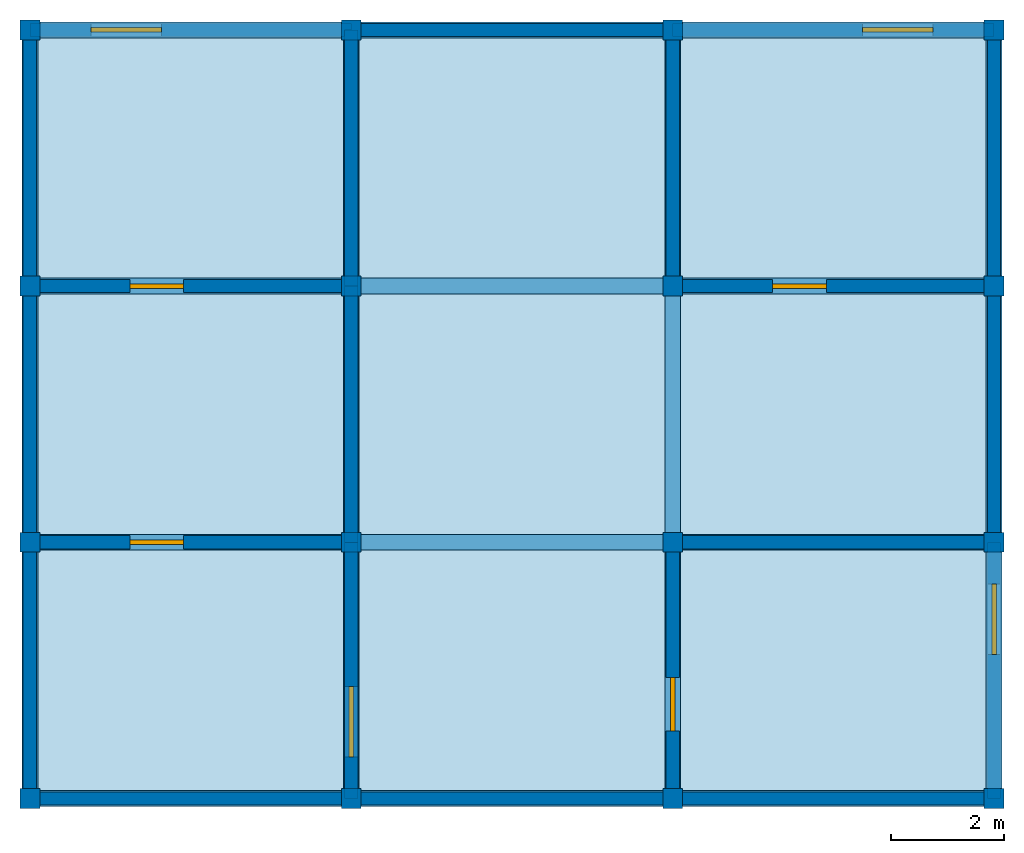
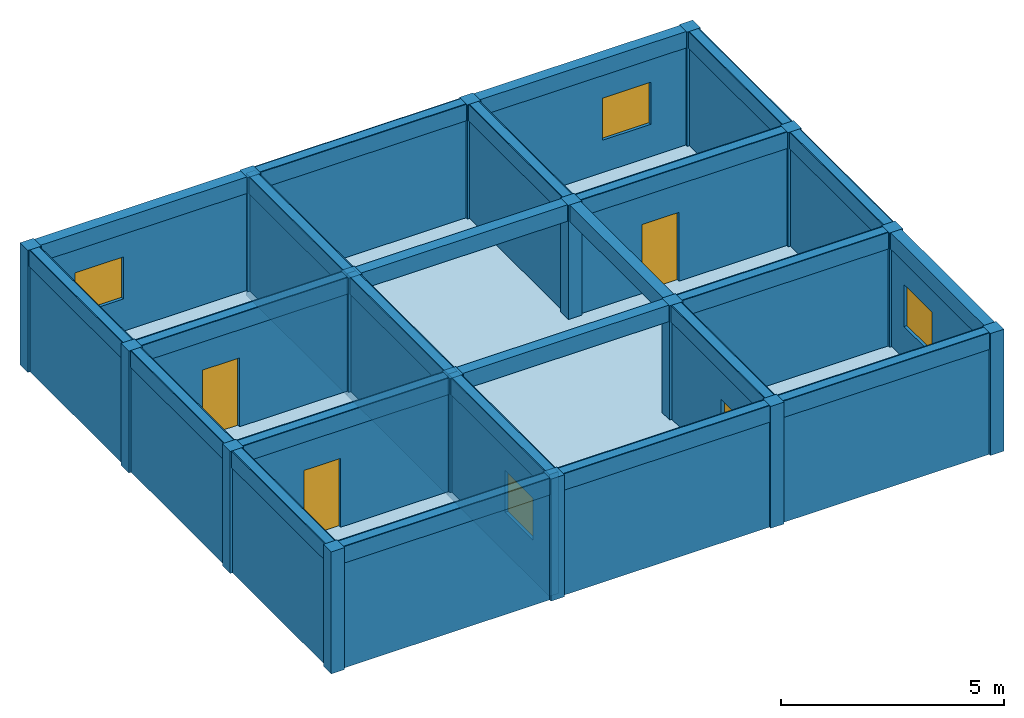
# One storey: 24 beams, 24 walls, 16 columns, 4 doors, 4 windows, 1 slab, 8 openings.
"""IFC4X3 building model written with IfcOpenShell, lengths in metres."""

from ifc_helpers import new_model, si_unit, frame, origin_with_axes, origin_2d, place, context, project, spatial, rectangle, extrude, material, element, fill, save


model = new_model("IFC4X3")

# Units and contexts
model_context = context("Model", 3, precision=1e-05, world=origin_with_axes())
ifc_project = project(units=[si_unit("LENGTHUNIT", "METRE"), si_unit("AREAUNIT", "SQUARE_METRE"), si_unit("VOLUMEUNIT", "CUBIC_METRE")], contexts=[model_context])

# Site, building, storey
site = spatial("IfcSite", under=ifc_project, Name="Valdivia Parcel", CompositionType="ELEMENT")
building = spatial("IfcBuilding", under=site, Name="Strata Block", CompositionType="ELEMENT")
storey = spatial("IfcBuildingStorey", under=building, Name="Level 11", CompositionType="ELEMENT", Elevation=33.35)

# Columns
ifc_material_1 = material(Name="Concrete")
column_1_placement = place(None, frame((-8.525, -6.795, 33.354), z_axis=(0.0, 0.0, 1.0), x_axis=(1.0, 0.0, 0.0)))
element("IfcColumn", 1, at=column_1_placement, inside=storey, material=ifc_material_1, Name="Column 11.1", ObjectType="Core Column", PredefinedType="COLUMN", context=model_context, shape_type="SweptSolid", body=[
    extrude(rectangle(XDim=0.35, YDim=0.35, at=origin_2d()), origin_with_axes(), (0.0, 0.0, 1.0), 3.335),
])
column_2_placement = place(None, frame((-8.525, -2.265, 33.354), z_axis=(0.0, 0.0, 1.0), x_axis=(1.0, 0.0, 0.0)))
element("IfcColumn", 2, at=column_2_placement, inside=storey, material=ifc_material_1, Name="Column 11.2", ObjectType="Core Column", PredefinedType="USERDEFINED", context=model_context, shape_type="SweptSolid", body=[
    extrude(rectangle(XDim=0.35, YDim=0.35, at=origin_2d()), origin_with_axes(), (0.0, 0.0, 1.0), 3.335),
])
column_3_placement = place(None, frame((-8.525, 2.265, 33.354), z_axis=(0.0, 0.0, 1.0), x_axis=(1.0, 0.0, 0.0)))
element("IfcColumn", 3, at=column_3_placement, inside=storey, material=ifc_material_1, Name="Column 11.3", ObjectType="Core Column", PredefinedType="NOTDEFINED", context=model_context, shape_type="SweptSolid", body=[
    extrude(rectangle(XDim=0.35, YDim=0.35, at=origin_2d()), origin_with_axes(), (0.0, 0.0, 1.0), 3.335),
])
column_4_placement = place(None, frame((-8.525, 6.795, 33.354), z_axis=(0.0, 0.0, 1.0), x_axis=(1.0, 0.0, 0.0)))
element("IfcColumn", 4, at=column_4_placement, inside=storey, material=ifc_material_1, Name="Column 11.4", ObjectType="Corner Column", PredefinedType="USERDEFINED", context=model_context, shape_type="SweptSolid", body=[
    extrude(rectangle(XDim=0.35, YDim=0.35, at=origin_2d()), origin_with_axes(), (0.0, 0.0, 1.0), 3.335),
])
column_5_placement = place(None, frame((-2.842, -6.795, 33.354), z_axis=(0.0, 0.0, 1.0), x_axis=(1.0, 0.0, 0.0)))
element("IfcColumn", 5, at=column_5_placement, inside=storey, material=ifc_material_1, Name="Column 11.5", ObjectType="Structural Column", PredefinedType="USERDEFINED", context=model_context, shape_type="SweptSolid", body=[
    extrude(rectangle(XDim=0.35, YDim=0.35, at=origin_2d()), origin_with_axes(), (0.0, 0.0, 1.0), 3.335),
])
column_6_placement = place(None, frame((-2.842, -2.265, 33.354), z_axis=(0.0, 0.0, 1.0), x_axis=(1.0, 0.0, 0.0)))
element("IfcColumn", 6, at=column_6_placement, inside=storey, material=ifc_material_1, Name="Column 11.6", ObjectType="Corner Column", PredefinedType="COLUMN", context=model_context, shape_type="SweptSolid", body=[
    extrude(rectangle(XDim=0.35, YDim=0.35, at=origin_2d()), origin_with_axes(), (0.0, 0.0, 1.0), 3.335),
])
column_7_placement = place(None, frame((-2.842, 2.265, 33.354), z_axis=(0.0, 0.0, 1.0), x_axis=(1.0, 0.0, 0.0)))
element("IfcColumn", 7, at=column_7_placement, inside=storey, material=ifc_material_1, Name="Column 11.7", ObjectType="Facade Column", PredefinedType="NOTDEFINED", context=model_context, shape_type="SweptSolid", body=[
    extrude(rectangle(XDim=0.35, YDim=0.35, at=origin_2d()), origin_with_axes(), (0.0, 0.0, 1.0), 3.335),
])
column_8_placement = place(None, frame((-2.842, 6.795, 33.354), z_axis=(0.0, 0.0, 1.0), x_axis=(1.0, 0.0, 0.0)))
element("IfcColumn", 8, at=column_8_placement, inside=storey, material=ifc_material_1, Name="Column 11.8", ObjectType="Corner Column", PredefinedType="NOTDEFINED", context=model_context, shape_type="SweptSolid", body=[
    extrude(rectangle(XDim=0.35, YDim=0.35, at=origin_2d()), origin_with_axes(), (0.0, 0.0, 1.0), 3.335),
])
column_9_placement = place(None, frame((2.841, -6.795, 33.354), z_axis=(0.0, 0.0, 1.0), x_axis=(1.0, 0.0, 0.0)))
element("IfcColumn", 9, at=column_9_placement, inside=storey, material=ifc_material_1, Name="Column 11.9", ObjectType="Structural Column", PredefinedType="PILASTER", context=model_context, shape_type="SweptSolid", body=[
    extrude(rectangle(XDim=0.35, YDim=0.35, at=origin_2d()), origin_with_axes(), (0.0, 0.0, 1.0), 3.335),
])
column_10_placement = place(None, frame((2.841, -2.265, 33.354), z_axis=(0.0, 0.0, 1.0), x_axis=(1.0, 0.0, 0.0)))
element("IfcColumn", 10, at=column_10_placement, inside=storey, material=ifc_material_1, Name="Column 11.10", ObjectType="Core Column", PredefinedType="NOTDEFINED", context=model_context, shape_type="SweptSolid", body=[
    extrude(rectangle(XDim=0.35, YDim=0.35, at=origin_2d()), origin_with_axes(), (0.0, 0.0, 1.0), 3.335),
])
column_11_placement = place(None, frame((2.841, 2.265, 33.354), z_axis=(0.0, 0.0, 1.0), x_axis=(1.0, 0.0, 0.0)))
element("IfcColumn", 11, at=column_11_placement, inside=storey, material=ifc_material_1, Name="Column 11.11", ObjectType="Corner Column", PredefinedType="PILASTER", context=model_context, shape_type="SweptSolid", body=[
    extrude(rectangle(XDim=0.35, YDim=0.35, at=origin_2d()), origin_with_axes(), (0.0, 0.0, 1.0), 3.335),
])
column_12_placement = place(None, frame((2.841, 6.795, 33.354), z_axis=(0.0, 0.0, 1.0), x_axis=(1.0, 0.0, 0.0)))
element("IfcColumn", 12, at=column_12_placement, inside=storey, material=ifc_material_1, Name="Column 11.12", ObjectType="Core Column", PredefinedType="COLUMN", context=model_context, shape_type="SweptSolid", body=[
    extrude(rectangle(XDim=0.35, YDim=0.35, at=origin_2d()), origin_with_axes(), (0.0, 0.0, 1.0), 3.335),
])
column_13_placement = place(None, frame((8.524, -6.795, 33.354), z_axis=(0.0, 0.0, 1.0), x_axis=(1.0, 0.0, 0.0)))
element("IfcColumn", 13, at=column_13_placement, inside=storey, material=ifc_material_1, Name="Column 11.13", ObjectType="Corner Column", PredefinedType="COLUMN", context=model_context, shape_type="SweptSolid", body=[
    extrude(rectangle(XDim=0.35, YDim=0.35, at=origin_2d()), origin_with_axes(), (0.0, 0.0, 1.0), 3.335),
])
column_14_placement = place(None, frame((8.524, -2.265, 33.354), z_axis=(0.0, 0.0, 1.0), x_axis=(1.0, 0.0, 0.0)))
element("IfcColumn", 14, at=column_14_placement, inside=storey, material=ifc_material_1, Name="Column 11.14", ObjectType="Corner Column", PredefinedType="USERDEFINED", context=model_context, shape_type="SweptSolid", body=[
    extrude(rectangle(XDim=0.35, YDim=0.35, at=origin_2d()), origin_with_axes(), (0.0, 0.0, 1.0), 3.335),
])
column_15_placement = place(None, frame((8.524, 2.265, 33.354), z_axis=(0.0, 0.0, 1.0), x_axis=(1.0, 0.0, 0.0)))
element("IfcColumn", 15, at=column_15_placement, inside=storey, material=ifc_material_1, Name="Column 11.15", ObjectType="Corner Column", PredefinedType="COLUMN", context=model_context, shape_type="SweptSolid", body=[
    extrude(rectangle(XDim=0.35, YDim=0.35, at=origin_2d()), origin_with_axes(), (0.0, 0.0, 1.0), 3.335),
])
column_16_placement = place(None, frame((8.524, 6.795, 33.354), z_axis=(0.0, 0.0, 1.0), x_axis=(1.0, 0.0, 0.0)))
element("IfcColumn", 16, at=column_16_placement, inside=storey, material=ifc_material_1, Name="Column 11.16", ObjectType="Corner Column", PredefinedType="NOTDEFINED", context=model_context, shape_type="SweptSolid", body=[
    extrude(rectangle(XDim=0.35, YDim=0.35, at=origin_2d()), origin_with_axes(), (0.0, 0.0, 1.0), 3.335),
])

# Beams
ifc_material_2 = material(Name="Timber")
beam_1_placement = place(None, frame((-5.684, -6.795, 36.239), z_axis=(0.0, 0.0, 1.0), x_axis=(1.0, 0.0, 0.0)))
element("IfcBeam", 17, at=beam_1_placement, inside=storey, material=ifc_material_2, Name="Beam 11.1", ObjectType="Ridge Beam", PredefinedType="LINTEL", context=model_context, shape_type="SweptSolid", body=[
    extrude(rectangle(XDim=5.683, YDim=0.28, at=origin_2d()), origin_with_axes(), (0.0, 0.0, 1.0), 0.45),
])
beam_2_placement = place(None, frame((0.0, -6.795, 36.239), z_axis=(0.0, 0.0, 1.0), x_axis=(1.0, 0.0, 0.0)))
element("IfcBeam", 18, at=beam_2_placement, inside=storey, material=ifc_material_2, Name="Beam 11.2", ObjectType="Secondary Beam", PredefinedType="T_BEAM", context=model_context, shape_type="SweptSolid", body=[
    extrude(rectangle(XDim=5.683, YDim=0.28, at=origin_2d()), origin_with_axes(), (0.0, 0.0, 1.0), 0.45),
])
beam_3_placement = place(None, frame((5.682, -6.795, 36.239), z_axis=(0.0, 0.0, 1.0), x_axis=(1.0, 0.0, 0.0)))
element("IfcBeam", 19, at=beam_3_placement, inside=storey, material=ifc_material_2, Name="Beam 11.3", ObjectType="Transfer Beam", PredefinedType="JOIST", context=model_context, shape_type="SweptSolid", body=[
    extrude(rectangle(XDim=5.683, YDim=0.28, at=origin_2d()), origin_with_axes(), (0.0, 0.0, 1.0), 0.45),
])
beam_4_placement = place(None, frame((-5.684, -2.265, 36.239), z_axis=(0.0, 0.0, 1.0), x_axis=(1.0, 0.0, 0.0)))
element("IfcBeam", 20, at=beam_4_placement, inside=storey, material=ifc_material_2, Name="Beam 11.4", ObjectType="Primary Beam", PredefinedType="LINTEL", context=model_context, shape_type="SweptSolid", body=[
    extrude(rectangle(XDim=5.683, YDim=0.28, at=origin_2d()), origin_with_axes(), (0.0, 0.0, 1.0), 0.45),
])
beam_5_placement = place(None, frame((0.0, -2.265, 36.239), z_axis=(0.0, 0.0, 1.0), x_axis=(1.0, 0.0, 0.0)))
element("IfcBeam", 21, at=beam_5_placement, inside=storey, material=ifc_material_2, Name="Beam 11.5", ObjectType="Rafter Beam", PredefinedType="JOIST", context=model_context, shape_type="SweptSolid", body=[
    extrude(rectangle(XDim=5.683, YDim=0.28, at=origin_2d()), origin_with_axes(), (0.0, 0.0, 1.0), 0.45),
])
beam_6_placement = place(None, frame((5.682, -2.265, 36.239), z_axis=(0.0, 0.0, 1.0), x_axis=(1.0, 0.0, 0.0)))
element("IfcBeam", 22, at=beam_6_placement, inside=storey, material=ifc_material_2, Name="Beam 11.6", ObjectType="Ridge Beam", PredefinedType="T_BEAM", context=model_context, shape_type="SweptSolid", body=[
    extrude(rectangle(XDim=5.683, YDim=0.28, at=origin_2d()), origin_with_axes(), (0.0, 0.0, 1.0), 0.45),
])
beam_7_placement = place(None, frame((-5.684, 2.265, 36.239), z_axis=(0.0, 0.0, 1.0), x_axis=(1.0, 0.0, 0.0)))
element("IfcBeam", 23, at=beam_7_placement, inside=storey, material=ifc_material_2, Name="Beam 11.7", ObjectType="Transfer Beam", PredefinedType="T_BEAM", context=model_context, shape_type="SweptSolid", body=[
    extrude(rectangle(XDim=5.683, YDim=0.28, at=origin_2d()), origin_with_axes(), (0.0, 0.0, 1.0), 0.45),
])
beam_8_placement = place(None, frame((0.0, 2.265, 36.239), z_axis=(0.0, 0.0, 1.0), x_axis=(1.0, 0.0, 0.0)))
element("IfcBeam", 24, at=beam_8_placement, inside=storey, material=ifc_material_2, Name="Beam 11.8", ObjectType="Secondary Beam", PredefinedType="JOIST", context=model_context, shape_type="SweptSolid", body=[
    extrude(rectangle(XDim=5.683, YDim=0.28, at=origin_2d()), origin_with_axes(), (0.0, 0.0, 1.0), 0.45),
])
beam_9_placement = place(None, frame((5.682, 2.265, 36.239), z_axis=(0.0, 0.0, 1.0), x_axis=(1.0, 0.0, 0.0)))
element("IfcBeam", 25, at=beam_9_placement, inside=storey, material=ifc_material_2, Name="Beam 11.9", ObjectType="Transfer Beam", PredefinedType="USERDEFINED", context=model_context, shape_type="SweptSolid", body=[
    extrude(rectangle(XDim=5.683, YDim=0.28, at=origin_2d()), origin_with_axes(), (0.0, 0.0, 1.0), 0.45),
])
beam_10_placement = place(None, frame((-5.684, 6.795, 36.239), z_axis=(0.0, 0.0, 1.0), x_axis=(1.0, 0.0, 0.0)))
element("IfcBeam", 26, at=beam_10_placement, inside=storey, material=ifc_material_2, Name="Beam 11.10", ObjectType="Secondary Beam", PredefinedType="HOLLOWCORE", context=model_context, shape_type="SweptSolid", body=[
    extrude(rectangle(XDim=5.683, YDim=0.28, at=origin_2d()), origin_with_axes(), (0.0, 0.0, 1.0), 0.45),
])
beam_11_placement = place(None, frame((0.0, 6.795, 36.239), z_axis=(0.0, 0.0, 1.0), x_axis=(1.0, 0.0, 0.0)))
element("IfcBeam", 27, at=beam_11_placement, inside=storey, material=ifc_material_2, Name="Beam 11.11", ObjectType="Rafter Beam", PredefinedType="NOTDEFINED", context=model_context, shape_type="SweptSolid", body=[
    extrude(rectangle(XDim=5.683, YDim=0.28, at=origin_2d()), origin_with_axes(), (0.0, 0.0, 1.0), 0.45),
])
beam_12_placement = place(None, frame((5.682, 6.795, 36.239), z_axis=(0.0, 0.0, 1.0), x_axis=(1.0, 0.0, 0.0)))
element("IfcBeam", 28, at=beam_12_placement, inside=storey, material=ifc_material_2, Name="Beam 11.12", ObjectType="Rafter Beam", PredefinedType="BEAM", context=model_context, shape_type="SweptSolid", body=[
    extrude(rectangle(XDim=5.683, YDim=0.28, at=origin_2d()), origin_with_axes(), (0.0, 0.0, 1.0), 0.45),
])
beam_13_placement = place(None, frame((-8.525, -4.53, 36.239), z_axis=(0.0, 0.0, 1.0), x_axis=(0.0, 1.0, 0.0)))
element("IfcBeam", 29, at=beam_13_placement, inside=storey, material=ifc_material_2, Name="Beam 11.13", ObjectType="Ridge Beam", PredefinedType="LINTEL", context=model_context, shape_type="SweptSolid", body=[
    extrude(rectangle(XDim=4.53, YDim=0.28, at=origin_2d()), origin_with_axes(), (0.0, 0.0, 1.0), 0.45),
])
beam_14_placement = place(None, frame((-8.525, 0.0, 36.239), z_axis=(0.0, 0.0, 1.0), x_axis=(0.0, 1.0, 0.0)))
element("IfcBeam", 30, at=beam_14_placement, inside=storey, material=ifc_material_2, Name="Beam 11.14", ObjectType="Secondary Beam", PredefinedType="USERDEFINED", context=model_context, shape_type="SweptSolid", body=[
    extrude(rectangle(XDim=4.53, YDim=0.28, at=origin_2d()), origin_with_axes(), (0.0, 0.0, 1.0), 0.45),
])
beam_15_placement = place(None, frame((-8.525, 4.53, 36.239), z_axis=(0.0, 0.0, 1.0), x_axis=(0.0, 1.0, 0.0)))
element("IfcBeam", 31, at=beam_15_placement, inside=storey, material=ifc_material_2, Name="Beam 11.15", ObjectType="Primary Beam", PredefinedType="T_BEAM", context=model_context, shape_type="SweptSolid", body=[
    extrude(rectangle(XDim=4.53, YDim=0.28, at=origin_2d()), origin_with_axes(), (0.0, 0.0, 1.0), 0.45),
])
beam_16_placement = place(None, frame((-2.842, -4.53, 36.239), z_axis=(0.0, 0.0, 1.0), x_axis=(0.0, 1.0, 0.0)))
element("IfcBeam", 32, at=beam_16_placement, inside=storey, material=ifc_material_2, Name="Beam 11.16", ObjectType="Rafter Beam", PredefinedType="BEAM", context=model_context, shape_type="SweptSolid", body=[
    extrude(rectangle(XDim=4.53, YDim=0.28, at=origin_2d()), origin_with_axes(), (0.0, 0.0, 1.0), 0.45),
])
beam_17_placement = place(None, frame((-2.842, 0.0, 36.239), z_axis=(0.0, 0.0, 1.0), x_axis=(0.0, 1.0, 0.0)))
element("IfcBeam", 33, at=beam_17_placement, inside=storey, material=ifc_material_2, Name="Beam 11.17", ObjectType="Primary Beam", PredefinedType="NOTDEFINED", context=model_context, shape_type="SweptSolid", body=[
    extrude(rectangle(XDim=4.53, YDim=0.28, at=origin_2d()), origin_with_axes(), (0.0, 0.0, 1.0), 0.45),
])
for number, where, z_axis, x_axis, name in (
    (34, (-2.842, 4.53, 36.239), (0.0, 0.0, 1.0), (0.0, 1.0, 0.0), "Beam 11.18"),
    (35, (2.841, -4.53, 36.239), (0.0, 0.0, 1.0), (0.0, 1.0, 0.0), "Beam 11.19"),
):
    element("IfcBeam", number, at=place(None, frame(where, z_axis=z_axis, x_axis=x_axis)), inside=storey, material=ifc_material_2, Name=name, ObjectType="Rafter Beam", PredefinedType="JOIST", context=model_context, shape_type="SweptSolid", body=[
        extrude(rectangle(XDim=4.53, YDim=0.28, at=origin_2d()), origin_with_axes(), (0.0, 0.0, 1.0), 0.45),
    ])
beam_18_placement = place(None, frame((2.841, 0.0, 36.239), z_axis=(0.0, 0.0, 1.0), x_axis=(0.0, 1.0, 0.0)))
element("IfcBeam", 36, at=beam_18_placement, inside=storey, material=ifc_material_2, Name="Beam 11.20", ObjectType="Primary Beam", PredefinedType="LINTEL", context=model_context, shape_type="SweptSolid", body=[
    extrude(rectangle(XDim=4.53, YDim=0.28, at=origin_2d()), origin_with_axes(), (0.0, 0.0, 1.0), 0.45),
])
beam_19_placement = place(None, frame((2.841, 4.53, 36.239), z_axis=(0.0, 0.0, 1.0), x_axis=(0.0, 1.0, 0.0)))
element("IfcBeam", 37, at=beam_19_placement, inside=storey, material=ifc_material_2, Name="Beam 11.21", ObjectType="Secondary Beam", PredefinedType="BEAM", context=model_context, shape_type="SweptSolid", body=[
    extrude(rectangle(XDim=4.53, YDim=0.28, at=origin_2d()), origin_with_axes(), (0.0, 0.0, 1.0), 0.45),
])
beam_20_placement = place(None, frame((8.524, -4.53, 36.239), z_axis=(0.0, 0.0, 1.0), x_axis=(0.0, 1.0, 0.0)))
element("IfcBeam", 38, at=beam_20_placement, inside=storey, material=ifc_material_2, Name="Beam 11.22", ObjectType="Rafter Beam", PredefinedType="USERDEFINED", context=model_context, shape_type="SweptSolid", body=[
    extrude(rectangle(XDim=4.53, YDim=0.28, at=origin_2d()), origin_with_axes(), (0.0, 0.0, 1.0), 0.45),
])
beam_21_placement = place(None, frame((8.524, 0.0, 36.239), z_axis=(0.0, 0.0, 1.0), x_axis=(0.0, 1.0, 0.0)))
element("IfcBeam", 39, at=beam_21_placement, inside=storey, material=ifc_material_2, Name="Beam 11.23", ObjectType="Ridge Beam", PredefinedType="USERDEFINED", context=model_context, shape_type="SweptSolid", body=[
    extrude(rectangle(XDim=4.53, YDim=0.28, at=origin_2d()), origin_with_axes(), (0.0, 0.0, 1.0), 0.45),
])
beam_22_placement = place(None, frame((8.524, 4.53, 36.239), z_axis=(0.0, 0.0, 1.0), x_axis=(0.0, 1.0, 0.0)))
element("IfcBeam", 40, at=beam_22_placement, inside=storey, material=ifc_material_2, Name="Beam 11.24", ObjectType="Primary Beam", PredefinedType="USERDEFINED", context=model_context, shape_type="SweptSolid", body=[
    extrude(rectangle(XDim=4.53, YDim=0.28, at=origin_2d()), origin_with_axes(), (0.0, 0.0, 1.0), 0.45),
])

# Slab
slab_placement = place(None, frame((0.0, 0.0, 33.35), z_axis=(0.0, 0.0, 1.0), x_axis=(1.0, 0.0, 0.0)))
element("IfcSlab", 41, at=slab_placement, inside=storey, material=ifc_material_1, Name="Slab 11", ObjectType="Floor Slab", PredefinedType="FLOOR", context=model_context, shape_type="SweptSolid", body=[
    extrude(rectangle(XDim=17.05, YDim=13.59, at=origin_2d()), origin_with_axes(), (0.0, 0.0, 1.0), 0.22),
])

# Wall, opening, door
wall_1_placement = place(None, frame((-5.684, -2.265, 33.354), z_axis=(0.0, 0.0, 1.0), x_axis=(1.0, 0.0, 0.0)))
wall_1 = element("IfcWall", 42, at=wall_1_placement, inside=storey, material=ifc_material_1, Name="Wall 11.1", ObjectType="Corridor Partition", PredefinedType="PLUMBINGWALL", context=model_context, shape_type="SweptSolid", body=[
    extrude(rectangle(XDim=5.683, YDim=0.234741, at=origin_2d()), origin_with_axes(), (0.0, 0.0, 1.0), 3.335),
])
opening_1_placement = place(None, frame((-6.284, -2.265, 33.354), z_axis=(0.0, 0.0, 1.0), x_axis=(1.0, 0.0, 0.0)))
opening_1 = element("IfcOpeningElement", 43, at=opening_1_placement, cuts=wall_1, Name="Door opening 11.1", ObjectType="Door Opening", PredefinedType="OPENING", context=model_context, shape_type="SweptSolid", body=[
    extrude(rectangle(XDim=0.95, YDim=0.314741, at=origin_2d()), origin_with_axes(), (0.0, 0.0, 1.0), 2.1),
])
door_1_placement = place(None, frame((-6.284, -2.265, 33.354), z_axis=(0.0, 0.0, 1.0), x_axis=(1.0, 0.0, 0.0)))
door_1 = element("IfcDoor", 44, at=door_1_placement, inside=storey, Name="Door 11.1", ObjectType="Fire Door", OverallHeight=2.1, OverallWidth=0.95, context=model_context, shape_type="SweptSolid", body=[
    extrude(rectangle(XDim=0.95, YDim=0.08, at=origin_2d()), origin_with_axes(), (0.0, 0.0, 1.0), 2.1),
])
fill(opening_1, door_1)

# Wall, opening, window
ifc_material_3 = material(Name="CLT")
wall_2_placement = place(None, frame((-2.8425, -4.53, 33.354), z_axis=(0.0, 0.0, 1.0), x_axis=(0.0, 1.0, 0.0)))
wall_2 = element("IfcWall", 45, at=wall_2_placement, inside=storey, material=ifc_material_3, Name="Wall 11.2", ObjectType="Exterior Wall", PredefinedType="STANDARD", context=model_context, shape_type="SweptSolid", body=[
    extrude(rectangle(XDim=4.53, YDim=0.234741, at=origin_2d()), origin_with_axes(), (0.0, 0.0, 1.0), 3.335),
])
opening_2_placement = place(None, frame((-2.843, -5.436, 34.454), z_axis=(0.0, 0.0, 1.0), x_axis=(0.0, 1.0, 0.0)))
opening_2 = element("IfcOpeningElement", 46, at=opening_2_placement, cuts=wall_2, Name="Window opening 11.2", ObjectType="Window Opening", PredefinedType="OPENING", context=model_context, shape_type="SweptSolid", body=[
    extrude(rectangle(XDim=1.25, YDim=0.314741, at=origin_2d()), origin_with_axes(), (0.0, 0.0, 1.0), 1.15),
])
window_1_placement = place(None, frame((-2.843, -5.436, 34.454), z_axis=(0.0, 0.0, 1.0), x_axis=(0.0, 1.0, 0.0)))
window_1 = element("IfcWindow", 47, at=window_1_placement, inside=storey, Name="Window 11.2", ObjectType="Fixed Window", OverallHeight=1.15, OverallWidth=1.25, context=model_context, shape_type="SweptSolid", body=[
    extrude(rectangle(XDim=1.25, YDim=0.08, at=origin_2d()), origin_with_axes(), (0.0, 0.0, 1.0), 1.15),
])
fill(opening_2, window_1)

# Walls
wall_3_placement = place(None, frame((-5.684, -6.795, 33.354), z_axis=(0.0, 0.0, 1.0), x_axis=(1.0, 0.0, 0.0)))
element("IfcWall", 48, at=wall_3_placement, inside=storey, material=ifc_material_3, Name="Wall 11.3", ObjectType="Exterior Wall", PredefinedType="SHEAR", context=model_context, shape_type="SweptSolid", body=[
    extrude(rectangle(XDim=5.683, YDim=0.234741, at=origin_2d()), origin_with_axes(), (0.0, 0.0, 1.0), 3.335),
])
wall_4_placement = place(None, frame((-8.5255, -4.53, 33.354), z_axis=(0.0, 0.0, 1.0), x_axis=(0.0, 1.0, 0.0)))
element("IfcWall", 49, at=wall_4_placement, inside=storey, material=ifc_material_1, Name="Wall 11.4", ObjectType="Exterior Wall", PredefinedType="SOLIDWALL", context=model_context, shape_type="SweptSolid", body=[
    extrude(rectangle(XDim=4.53, YDim=0.234741, at=origin_2d()), origin_with_axes(), (0.0, 0.0, 1.0), 3.335),
])

# Wall, opening, door
ifc_material_4 = material(Name="Gypsum")
wall_5_placement = place(None, frame((2.8405, -4.53, 33.354), z_axis=(0.0, 0.0, 1.0), x_axis=(0.0, 1.0, 0.0)))
wall_5 = element("IfcWall", 50, at=wall_5_placement, inside=storey, material=ifc_material_4, Name="Wall 11.5", ObjectType="Corridor Partition", PredefinedType="POLYGONAL", context=model_context, shape_type="SweptSolid", body=[
    extrude(rectangle(XDim=4.53, YDim=0.234741, at=origin_2d()), origin_with_axes(), (0.0, 0.0, 1.0), 3.335),
])
opening_3_placement = place(None, frame((2.841, -5.13, 33.354), z_axis=(0.0, 0.0, 1.0), x_axis=(0.0, 1.0, 0.0)))
opening_3 = element("IfcOpeningElement", 51, at=opening_3_placement, cuts=wall_5, Name="Door opening 11.3", ObjectType="Door Opening", PredefinedType="OPENING", context=model_context, shape_type="SweptSolid", body=[
    extrude(rectangle(XDim=0.95, YDim=0.314741, at=origin_2d()), origin_with_axes(), (0.0, 0.0, 1.0), 2.1),
])
door_2_placement = place(None, frame((2.841, -5.13, 33.354), z_axis=(0.0, 0.0, 1.0), x_axis=(0.0, 1.0, 0.0)))
door_2 = element("IfcDoor", 52, at=door_2_placement, inside=storey, Name="Door 11.3", ObjectType="Entry Door", OverallHeight=2.1, OverallWidth=0.95, context=model_context, shape_type="SweptSolid", body=[
    extrude(rectangle(XDim=0.95, YDim=0.08, at=origin_2d()), origin_with_axes(), (0.0, 0.0, 1.0), 2.1),
])
fill(opening_3, door_2)

# Walls
wall_6_placement = place(None, frame((-0.001, -6.795, 33.354), z_axis=(0.0, 0.0, 1.0), x_axis=(1.0, 0.0, 0.0)))
element("IfcWall", 53, at=wall_6_placement, inside=storey, material=ifc_material_1, Name="Wall 11.6", ObjectType="Exterior Wall", PredefinedType="USERDEFINED", context=model_context, shape_type="SweptSolid", body=[
    extrude(rectangle(XDim=5.683, YDim=0.234741, at=origin_2d()), origin_with_axes(), (0.0, 0.0, 1.0), 3.335),
])
wall_7_placement = place(None, frame((-2.8425, -4.53, 33.354), z_axis=(0.0, 0.0, 1.0), x_axis=(0.0, 1.0, 0.0)))
element("IfcWall", 54, at=wall_7_placement, inside=storey, material=ifc_material_1, Name="Wall 11.7", ObjectType="Exterior Wall", PredefinedType="USERDEFINED", context=model_context, shape_type="SweptSolid", body=[
    extrude(rectangle(XDim=4.53, YDim=0.234741, at=origin_2d()), origin_with_axes(), (0.0, 0.0, 1.0), 3.335),
])
wall_8_placement = place(None, frame((5.682, -2.265, 33.354), z_axis=(0.0, 0.0, 1.0), x_axis=(1.0, 0.0, 0.0)))
element("IfcWall", 55, at=wall_8_placement, inside=storey, material=ifc_material_1, Name="Wall 11.8", ObjectType="Corridor Partition", PredefinedType="SHEAR", context=model_context, shape_type="SweptSolid", body=[
    extrude(rectangle(XDim=5.683, YDim=0.234741, at=origin_2d()), origin_with_axes(), (0.0, 0.0, 1.0), 3.335),
])

# Wall, opening, window
ifc_material_5 = material(Name="Brick")
wall_9_placement = place(None, frame((8.5235, -4.53, 33.354), z_axis=(0.0, 0.0, 1.0), x_axis=(0.0, 1.0, 0.0)))
wall_9 = element("IfcWall", 56, at=wall_9_placement, inside=storey, material=ifc_material_5, Name="Wall 11.9", ObjectType="Exterior Wall", PredefinedType="MOVABLE", context=model_context, shape_type="SweptSolid", body=[
    extrude(rectangle(XDim=4.53, YDim=0.234741, at=origin_2d()), origin_with_axes(), (0.0, 0.0, 1.0), 3.335),
])
opening_4_placement = place(None, frame((8.524, -3.624, 34.454), z_axis=(0.0, 0.0, 1.0), x_axis=(0.0, 1.0, 0.0)))
opening_4 = element("IfcOpeningElement", 57, at=opening_4_placement, cuts=wall_9, Name="Window opening 11.4", ObjectType="Window Opening", PredefinedType="OPENING", context=model_context, shape_type="SweptSolid", body=[
    extrude(rectangle(XDim=1.25, YDim=0.314741, at=origin_2d()), origin_with_axes(), (0.0, 0.0, 1.0), 1.15),
])
window_2_placement = place(None, frame((8.524, -3.624, 34.454), z_axis=(0.0, 0.0, 1.0), x_axis=(0.0, 1.0, 0.0)))
window_2 = element("IfcWindow", 58, at=window_2_placement, inside=storey, Name="Window 11.4", ObjectType="Fixed Window", OverallHeight=1.15, OverallWidth=1.25, context=model_context, shape_type="SweptSolid", body=[
    extrude(rectangle(XDim=1.25, YDim=0.08, at=origin_2d()), origin_with_axes(), (0.0, 0.0, 1.0), 1.15),
])
fill(opening_4, window_2)

# Wall
wall_10_placement = place(None, frame((5.682, -6.795, 33.354), z_axis=(0.0, 0.0, 1.0), x_axis=(1.0, 0.0, 0.0)))
element("IfcWall", 59, at=wall_10_placement, inside=storey, material=ifc_material_1, Name="Wall 11.10", ObjectType="Exterior Wall", PredefinedType="SOLIDWALL", context=model_context, shape_type="SweptSolid", body=[
    extrude(rectangle(XDim=5.683, YDim=0.234741, at=origin_2d()), origin_with_axes(), (0.0, 0.0, 1.0), 3.335),
])

# Wall, opening, door
wall_11_placement = place(None, frame((-5.684, 2.265, 33.354), z_axis=(0.0, 0.0, 1.0), x_axis=(1.0, 0.0, 0.0)))
wall_11 = element("IfcWall", 60, at=wall_11_placement, inside=storey, material=ifc_material_4, Name="Wall 11.11", ObjectType="Corridor Partition", PredefinedType="PARTITIONING", context=model_context, shape_type="SweptSolid", body=[
    extrude(rectangle(XDim=5.683, YDim=0.234741, at=origin_2d()), origin_with_axes(), (0.0, 0.0, 1.0), 3.335),
])
opening_5_placement = place(None, frame((-6.284, 2.265, 33.354), z_axis=(0.0, 0.0, 1.0), x_axis=(1.0, 0.0, 0.0)))
opening_5 = element("IfcOpeningElement", 61, at=opening_5_placement, cuts=wall_11, Name="Door opening 11.5", ObjectType="Door Opening", PredefinedType="OPENING", context=model_context, shape_type="SweptSolid", body=[
    extrude(rectangle(XDim=0.95, YDim=0.314741, at=origin_2d()), origin_with_axes(), (0.0, 0.0, 1.0), 2.1),
])
door_3_placement = place(None, frame((-6.284, 2.265, 33.354), z_axis=(0.0, 0.0, 1.0), x_axis=(1.0, 0.0, 0.0)))
door_3 = element("IfcDoor", 62, at=door_3_placement, inside=storey, Name="Door 11.5", ObjectType="Interior Door", OverallHeight=2.1, OverallWidth=0.95, context=model_context, shape_type="SweptSolid", body=[
    extrude(rectangle(XDim=0.95, YDim=0.08, at=origin_2d()), origin_with_axes(), (0.0, 0.0, 1.0), 2.1),
])
fill(opening_5, door_3)

# Walls
wall_12_placement = place(None, frame((-2.8425, 0.0, 33.354), z_axis=(0.0, 0.0, 1.0), x_axis=(0.0, 1.0, 0.0)))
element("IfcWall", 63, at=wall_12_placement, inside=storey, material=ifc_material_4, Name="Wall 11.12", ObjectType="Exterior Wall", PredefinedType="PARTITIONING", context=model_context, shape_type="SweptSolid", body=[
    extrude(rectangle(XDim=4.53, YDim=0.234741, at=origin_2d()), origin_with_axes(), (0.0, 0.0, 1.0), 3.335),
])
wall_13_placement = place(None, frame((-8.5255, 0.0, 33.354), z_axis=(0.0, 0.0, 1.0), x_axis=(0.0, 1.0, 0.0)))
element("IfcWall", 64, at=wall_13_placement, inside=storey, material=ifc_material_1, Name="Wall 11.13", ObjectType="Exterior Wall", PredefinedType="NOTDEFINED", context=model_context, shape_type="SweptSolid", body=[
    extrude(rectangle(XDim=4.53, YDim=0.234741, at=origin_2d()), origin_with_axes(), (0.0, 0.0, 1.0), 3.335),
])
wall_14_placement = place(None, frame((-2.8425, 0.0, 33.354), z_axis=(0.0, 0.0, 1.0), x_axis=(0.0, 1.0, 0.0)))
element("IfcWall", 65, at=wall_14_placement, inside=storey, material=ifc_material_4, Name="Wall 11.14", ObjectType="Exterior Wall", PredefinedType="PLUMBINGWALL", context=model_context, shape_type="SweptSolid", body=[
    extrude(rectangle(XDim=4.53, YDim=0.234741, at=origin_2d()), origin_with_axes(), (0.0, 0.0, 1.0), 3.335),
])

# Wall, opening, door
wall_15_placement = place(None, frame((5.682, 2.265, 33.354), z_axis=(0.0, 0.0, 1.0), x_axis=(1.0, 0.0, 0.0)))
wall_15 = element("IfcWall", 66, at=wall_15_placement, inside=storey, material=ifc_material_3, Name="Wall 11.15", ObjectType="Corridor Partition", PredefinedType="PARAPET", context=model_context, shape_type="SweptSolid", body=[
    extrude(rectangle(XDim=5.683, YDim=0.234741, at=origin_2d()), origin_with_axes(), (0.0, 0.0, 1.0), 3.335),
])
opening_6_placement = place(None, frame((5.082, 2.265, 33.354), z_axis=(0.0, 0.0, 1.0), x_axis=(1.0, 0.0, 0.0)))
opening_6 = element("IfcOpeningElement", 67, at=opening_6_placement, cuts=wall_15, Name="Door opening 11.7", ObjectType="Door Opening", PredefinedType="OPENING", context=model_context, shape_type="SweptSolid", body=[
    extrude(rectangle(XDim=0.95, YDim=0.314741, at=origin_2d()), origin_with_axes(), (0.0, 0.0, 1.0), 2.1),
])
door_4_placement = place(None, frame((5.082, 2.265, 33.354), z_axis=(0.0, 0.0, 1.0), x_axis=(1.0, 0.0, 0.0)))
door_4 = element("IfcDoor", 68, at=door_4_placement, inside=storey, Name="Door 11.7", ObjectType="Entry Door", OverallHeight=2.1, OverallWidth=0.95, context=model_context, shape_type="SweptSolid", body=[
    extrude(rectangle(XDim=0.95, YDim=0.08, at=origin_2d()), origin_with_axes(), (0.0, 0.0, 1.0), 2.1),
])
fill(opening_6, door_4)

# Wall
wall_16_placement = place(None, frame((8.5235, 0.0, 33.354), z_axis=(0.0, 0.0, 1.0), x_axis=(0.0, 1.0, 0.0)))
element("IfcWall", 69, at=wall_16_placement, inside=storey, material=ifc_material_4, Name="Wall 11.16", ObjectType="Exterior Wall", PredefinedType="SHEAR", context=model_context, shape_type="SweptSolid", body=[
    extrude(rectangle(XDim=4.53, YDim=0.234741, at=origin_2d()), origin_with_axes(), (0.0, 0.0, 1.0), 3.335),
])

# Wall, opening, window
wall_17_placement = place(None, frame((-5.684, 6.795, 33.354), z_axis=(0.0, 0.0, 1.0), x_axis=(1.0, 0.0, 0.0)))
wall_17 = element("IfcWall", 70, at=wall_17_placement, inside=storey, material=ifc_material_5, Name="Wall 11.17", ObjectType="Exterior Wall", PredefinedType="PARTITIONING", context=model_context, shape_type="SweptSolid", body=[
    extrude(rectangle(XDim=5.683, YDim=0.234741, at=origin_2d()), origin_with_axes(), (0.0, 0.0, 1.0), 3.335),
])
opening_7_placement = place(None, frame((-6.821, 6.795, 34.454), z_axis=(0.0, 0.0, 1.0), x_axis=(1.0, 0.0, 0.0)))
opening_7 = element("IfcOpeningElement", 71, at=opening_7_placement, cuts=wall_17, Name="Window opening 11.6", ObjectType="Window Opening", PredefinedType="OPENING", context=model_context, shape_type="SweptSolid", body=[
    extrude(rectangle(XDim=1.25, YDim=0.314741, at=origin_2d()), origin_with_axes(), (0.0, 0.0, 1.0), 1.15),
])
window_3_placement = place(None, frame((-6.821, 6.795, 34.454), z_axis=(0.0, 0.0, 1.0), x_axis=(1.0, 0.0, 0.0)))
window_3 = element("IfcWindow", 72, at=window_3_placement, inside=storey, Name="Window 11.6", ObjectType="Fixed Window", OverallHeight=1.15, OverallWidth=1.25, context=model_context, shape_type="SweptSolid", body=[
    extrude(rectangle(XDim=1.25, YDim=0.08, at=origin_2d()), origin_with_axes(), (0.0, 0.0, 1.0), 1.15),
])
fill(opening_7, window_3)

# Walls
wall_18_placement = place(None, frame((-2.8425, 4.53, 33.354), z_axis=(0.0, 0.0, 1.0), x_axis=(0.0, 1.0, 0.0)))
element("IfcWall", 73, at=wall_18_placement, inside=storey, material=ifc_material_4, Name="Wall 11.18", ObjectType="Exterior Wall", PredefinedType="PARAPET", context=model_context, shape_type="SweptSolid", body=[
    extrude(rectangle(XDim=4.53, YDim=0.234741, at=origin_2d()), origin_with_axes(), (0.0, 0.0, 1.0), 3.335),
])
wall_19_placement = place(None, frame((-8.5255, 4.53, 33.354), z_axis=(0.0, 0.0, 1.0), x_axis=(0.0, 1.0, 0.0)))
element("IfcWall", 74, at=wall_19_placement, inside=storey, material=ifc_material_4, Name="Wall 11.19", ObjectType="Exterior Wall", PredefinedType="MOVABLE", context=model_context, shape_type="SweptSolid", body=[
    extrude(rectangle(XDim=4.53, YDim=0.234741, at=origin_2d()), origin_with_axes(), (0.0, 0.0, 1.0), 3.335),
])
wall_20_placement = place(None, frame((-0.001, 6.795, 33.354), z_axis=(0.0, 0.0, 1.0), x_axis=(1.0, 0.0, 0.0)))
element("IfcWall", 75, at=wall_20_placement, inside=storey, material=ifc_material_4, Name="Wall 11.20", ObjectType="Exterior Wall", PredefinedType="USERDEFINED", context=model_context, shape_type="SweptSolid", body=[
    extrude(rectangle(XDim=5.683, YDim=0.234741, at=origin_2d()), origin_with_axes(), (0.0, 0.0, 1.0), 3.335),
])
wall_21_placement = place(None, frame((2.8405, 4.53, 33.354), z_axis=(0.0, 0.0, 1.0), x_axis=(0.0, 1.0, 0.0)))
element("IfcWall", 76, at=wall_21_placement, inside=storey, material=ifc_material_5, Name="Wall 11.21", ObjectType="Corridor Partition", PredefinedType="PARAPET", context=model_context, shape_type="SweptSolid", body=[
    extrude(rectangle(XDim=4.53, YDim=0.234741, at=origin_2d()), origin_with_axes(), (0.0, 0.0, 1.0), 3.335),
])
wall_22_placement = place(None, frame((-2.8425, 4.53, 33.354), z_axis=(0.0, 0.0, 1.0), x_axis=(0.0, 1.0, 0.0)))
element("IfcWall", 77, at=wall_22_placement, inside=storey, material=ifc_material_1, Name="Wall 11.22", ObjectType="Exterior Wall", PredefinedType="PARAPET", context=model_context, shape_type="SweptSolid", body=[
    extrude(rectangle(XDim=4.53, YDim=0.234741, at=origin_2d()), origin_with_axes(), (0.0, 0.0, 1.0), 3.335),
])

# Wall, opening, window
wall_23_placement = place(None, frame((5.682, 6.795, 33.354), z_axis=(0.0, 0.0, 1.0), x_axis=(1.0, 0.0, 0.0)))
wall_23 = element("IfcWall", 78, at=wall_23_placement, inside=storey, material=ifc_material_3, Name="Wall 11.23", ObjectType="Exterior Wall", PredefinedType="STANDARD", context=model_context, shape_type="SweptSolid", body=[
    extrude(rectangle(XDim=5.683, YDim=0.234741, at=origin_2d()), origin_with_axes(), (0.0, 0.0, 1.0), 3.335),
])
opening_8_placement = place(None, frame((6.819, 6.795, 34.454), z_axis=(0.0, 0.0, 1.0), x_axis=(1.0, 0.0, 0.0)))
opening_8 = element("IfcOpeningElement", 79, at=opening_8_placement, cuts=wall_23, Name="Window opening 11.8", ObjectType="Window Opening", PredefinedType="OPENING", context=model_context, shape_type="SweptSolid", body=[
    extrude(rectangle(XDim=1.25, YDim=0.314741, at=origin_2d()), origin_with_axes(), (0.0, 0.0, 1.0), 1.15),
])
window_4_placement = place(None, frame((6.819, 6.795, 34.454), z_axis=(0.0, 0.0, 1.0), x_axis=(1.0, 0.0, 0.0)))
window_4 = element("IfcWindow", 80, at=window_4_placement, inside=storey, Name="Window 11.8", ObjectType="Operable Window", OverallHeight=1.15, OverallWidth=1.25, context=model_context, shape_type="SweptSolid", body=[
    extrude(rectangle(XDim=1.25, YDim=0.08, at=origin_2d()), origin_with_axes(), (0.0, 0.0, 1.0), 1.15),
])
fill(opening_8, window_4)

# Wall
wall_24_placement = place(None, frame((8.5235, 4.53, 33.354), z_axis=(0.0, 0.0, 1.0), x_axis=(0.0, 1.0, 0.0)))
element("IfcWall", 81, at=wall_24_placement, inside=storey, material=ifc_material_3, Name="Wall 11.24", ObjectType="Exterior Wall", PredefinedType="SHEAR", context=model_context, shape_type="SweptSolid", body=[
    extrude(rectangle(XDim=4.53, YDim=0.234741, at=origin_2d()), origin_with_axes(), (0.0, 0.0, 1.0), 3.335),
])

save(model, "model.ifc")
